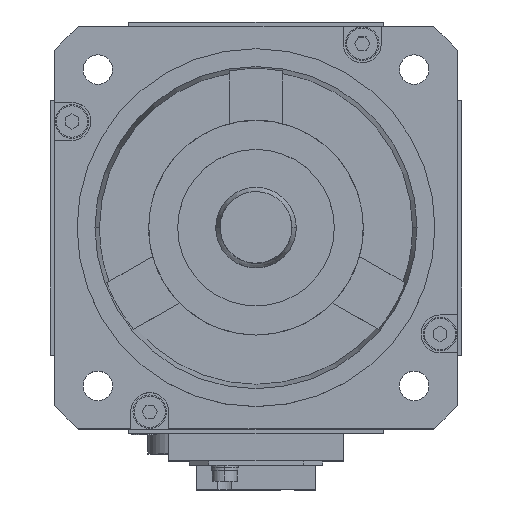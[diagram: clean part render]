
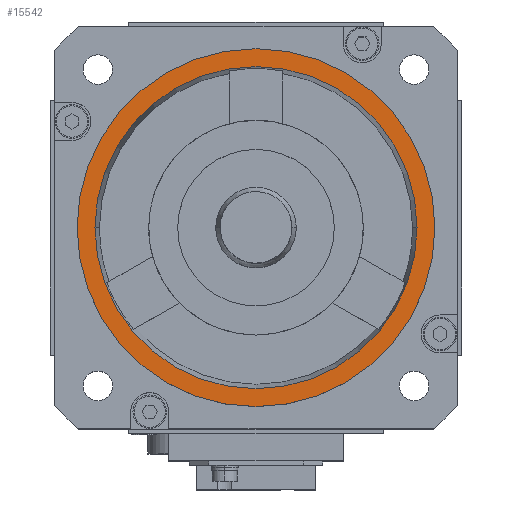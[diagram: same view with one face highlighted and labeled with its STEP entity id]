
A CAD part, top view. The second image highlights one B-rep face of the part: STEP entity #15542.
In plain terms, the highlighted planar face has unit normal (0, 0, 1).
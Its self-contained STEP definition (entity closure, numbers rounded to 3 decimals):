
#2622=CARTESIAN_POINT('',(0.,0.,5.));
#2623=DIRECTION('',(0.,0.,1.));
#2624=DIRECTION('',(-1.,0.,0.));
#2625=AXIS2_PLACEMENT_3D('',#2622,#2623,#2624);
#2627=CARTESIAN_POINT('',(0.,0.,5.));
#2628=DIRECTION('',(0.,0.,1.));
#2629=DIRECTION('',(1.,0.,0.));
#2630=AXIS2_PLACEMENT_3D('',#2627,#2628,#2629);
#2632=CARTESIAN_POINT('',(0.,0.,5.));
#2633=DIRECTION('',(0.,0.,-1.));
#2634=DIRECTION('',(-1.,0.,0.));
#2635=AXIS2_PLACEMENT_3D('',#2632,#2633,#2634);
#2637=CARTESIAN_POINT('',(0.,0.,5.));
#2638=DIRECTION('',(0.,0.,-1.));
#2639=DIRECTION('',(1.,0.,0.));
#2640=AXIS2_PLACEMENT_3D('',#2637,#2638,#2639);
#6915=CARTESIAN_POINT('',(40.,0.,5.));
#6916=VERTEX_POINT('',#6915);
#6917=CARTESIAN_POINT('',(-40.,0.,5.));
#6918=VERTEX_POINT('',#6917);
#7888=CARTESIAN_POINT('',(-36.,0.,5.));
#7889=CARTESIAN_POINT('',(36.,0.,5.));
#7890=VERTEX_POINT('',#7888);
#7891=VERTEX_POINT('',#7889);
#15527=CARTESIAN_POINT('',(0.,0.,5.));
#15528=DIRECTION('',(0.,0.,1.));
#15529=DIRECTION('',(1.,0.,0.));
#15530=AXIS2_PLACEMENT_3D('',#15527,#15528,#15529);
#15531=PLANE('',#15530);
#15532=ORIENTED_EDGE('',*,*,#15485,.F.);
#15533=ORIENTED_EDGE('',*,*,#15507,.F.);
#15534=EDGE_LOOP('',(#15532,#15533));
#15535=FACE_OUTER_BOUND('',#15534,.F.);
#15537=ORIENTED_EDGE('',*,*,#15536,.F.);
#15539=ORIENTED_EDGE('',*,*,#15538,.F.);
#15540=EDGE_LOOP('',(#15537,#15539));
#15541=FACE_BOUND('',#15540,.F.);
#15542=ADVANCED_FACE('',(#15535,#15541),#15531,.T.);
#2626=CIRCLE('',#2625,40.);
#2631=CIRCLE('',#2630,40.);
#2636=CIRCLE('',#2635,36.);
#2641=CIRCLE('',#2640,36.);
#15485=EDGE_CURVE('',#6918,#6916,#2626,.T.);
#15507=EDGE_CURVE('',#6916,#6918,#2631,.T.);
#15536=EDGE_CURVE('',#7890,#7891,#2636,.T.);
#15538=EDGE_CURVE('',#7891,#7890,#2641,.T.);
